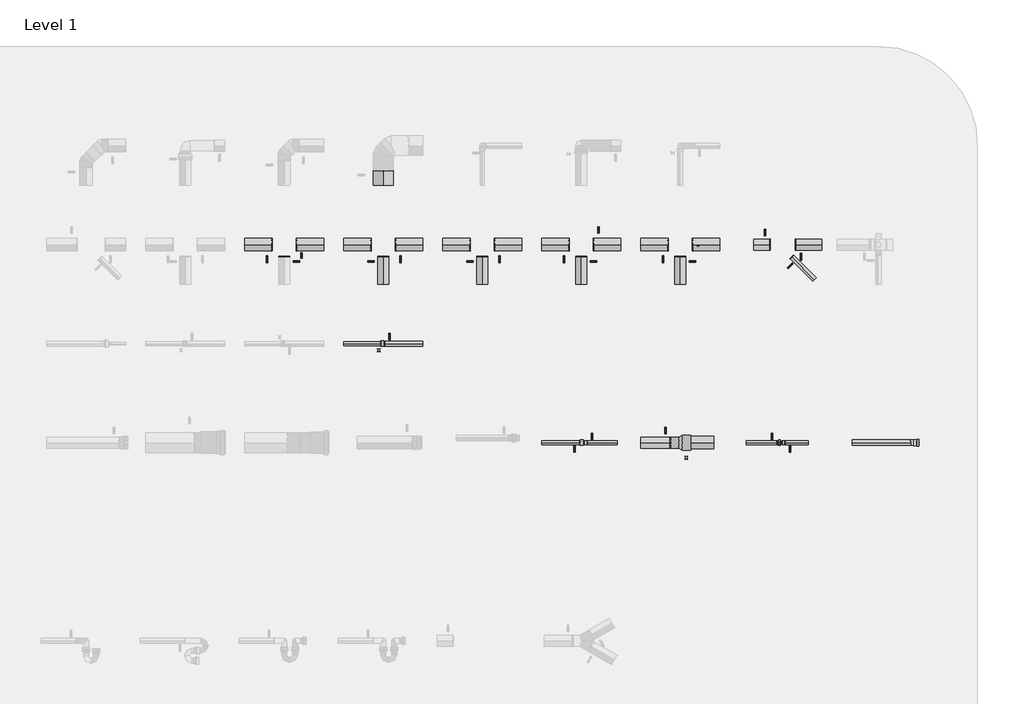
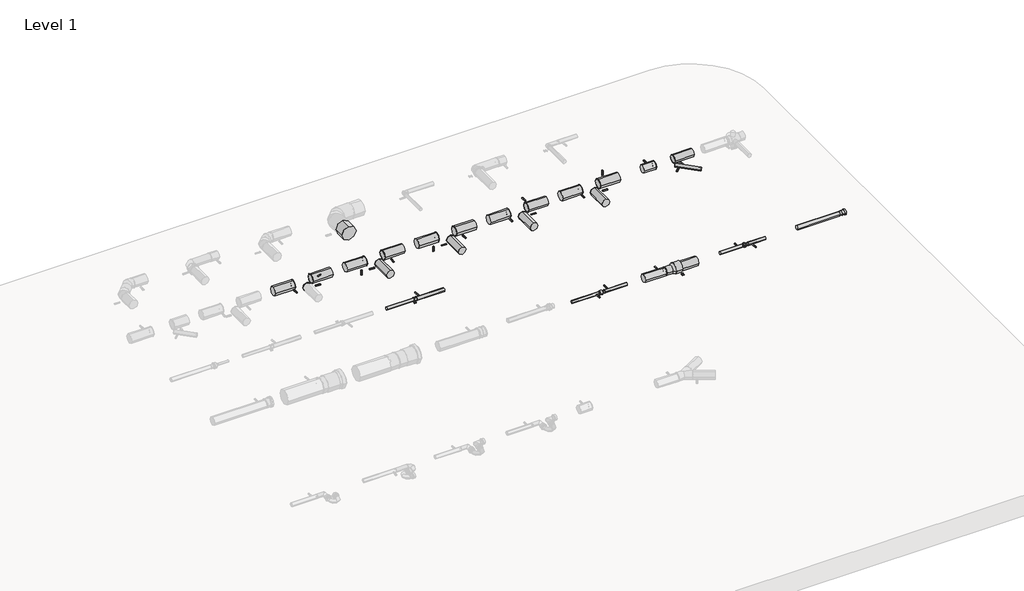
# One storey, part 5 of 6: 34 pipe fittings, 27 pipe segments.
"""IFC4 building model written with IfcOpenShell, lengths in millimetres."""

from ifc_helpers import new_model, si_unit, point, frame, frame_2d, origin, place, context, project, spatial, circle_curve, trimmed, segment, composite_curve, outline, extrude, transform, mapped, element, save
from components import pipe_fitting_c029aed5, pipe_fitting_32baf9d8, var_f4abe94e, var_7bcffa66, nested_do_not_use_0e8bf35e, nested_do_not_use_41f74998, nested_do_not_use_02fd2384, nested_do_not_use_2b7e7ef3, nested_do_not_use_4f358614, welded_7e5780db, welded_75b1cb19, welded_63566782, welded_ac007b25

model = new_model("IFC4")

# Units and contexts
model_context = context("Model", 3, world=origin())
ifc_project = project(units=[si_unit("LENGTHUNIT", "METRE", prefix="MILLI")], contexts=[model_context])

# Site, building, storey
site = spatial("IfcSite", under=ifc_project)
building = spatial("IfcBuilding", under=site)
storey = spatial("IfcBuildingStorey", under=building, Name="Level 1", Elevation=0.0)

# Pipe fittings
placement = place(None, origin())
pipe_fitting_shape = pipe_fitting_c029aed5(model_context)
element("IfcPipeFitting", 1, ObjectType="PIF_HDPE weld_Akatherm : ringseal or non-welded", at=placement, inside=storey, context=model_context, shape_type="MappedRepresentation", body=[
    mapped(pipe_fitting_shape, transform((10658.7281064, 18273.6274824, 200.0), x_axis=(-1.0, 0.0, 0.0), y_axis=(0.0, 1.0, 0.0), z_axis=(0.0, 0.0, -1.0))),
])
pipe_fitting_2_shape = pipe_fitting_32baf9d8(model_context)
element("IfcPipeFitting", 2, ObjectType="PIF_HDPE weld_Akatherm : ringseal or non-welded", at=placement, inside=storey, context=model_context, shape_type="MappedRepresentation", body=[
    mapped(pipe_fitting_2_shape, transform((13674.9781064, 17273.6274824, 200.0), x_axis=(1.0, 0.0, 0.0), y_axis=(0.0, 1.0, 0.0), z_axis=(0.0, 0.0, 1.0))),
])
var_shape = var_f4abe94e(model_context)
element("IfcPipeFitting", 3, ObjectType="PIF_HDPE plugin socket_Akatherm : Var.", at=placement, inside=storey, context=model_context, shape_type="MappedRepresentation", body=[
    mapped(var_shape, transform((15997.9781064, 17273.6274824, 200.0), x_axis=(1.0, 0.0, 0.0), y_axis=(0.0, 1.0, 0.0), z_axis=(0.0, 0.0, 1.0))),
])
var_2_shape = var_7bcffa66(model_context)
element("IfcPipeFitting", 4, ObjectType="PIF_HDPE retraction socket_Akatherm : Var.", at=placement, inside=storey, context=model_context, shape_type="MappedRepresentation", body=[
    mapped(var_2_shape, transform((13659.9781064, 17273.6274824, 200.0), x_axis=(1.0, 0.0, 0.0), y_axis=(0.0, 1.0, 0.0), z_axis=(0.0, 0.0, 1.0))),
])
nested_do_not_use_shape = nested_do_not_use_0e8bf35e(model_context)
element("IfcPipeFitting", 5, ObjectType="ZZZ_do no use_PIF_HDPE rubber sleeve -SH_Akatherm : nested, do not use", at=placement, inside=storey, context=model_context, shape_type="MappedRepresentation", body=[
    mapped(nested_do_not_use_shape, transform((10646.7281064, 18273.6274824, 200.0), x_axis=(-1.0, 0.0, 0.0), y_axis=(0.0, -1.0, 0.0), z_axis=(0.0, 0.0, 1.0))),
])
nested_do_not_use_2_shape = nested_do_not_use_41f74998(model_context)
element("IfcPipeFitting", 6, ObjectType="ZZZ_do no use_PIF_HDPE female thread adapter -SH_Akatherm : nested, do not use", at=placement, inside=storey, context=model_context, shape_type="MappedRepresentation", body=[
    mapped(nested_do_not_use_2_shape, transform((12660.9781064, 17273.6274824, 200.0), x_axis=(1.0, 0.0, 0.0), y_axis=(0.0, 1.0, 0.0), z_axis=(0.0, 0.0, 1.0))),
])
nested_do_not_use_3_shape = nested_do_not_use_02fd2384(model_context)
element("IfcPipeFitting", 7, ObjectType="ZZZ_do no use_PIF_HDPE male thread adapter -SH_Akatherm : nested, do not use", at=placement, inside=storey, context=model_context, shape_type="MappedRepresentation", body=[
    mapped(nested_do_not_use_3_shape, transform((12689.9781064, 17273.6274824, 200.0), x_axis=(-1.0, 0.0, 0.0), y_axis=(0.0, -1.0, 0.0), z_axis=(0.0, 0.0, 1.0))),
])
element("IfcPipeFitting", 8, ObjectType="ZZZ_do no use_PIF_HDPE male thread adapter -SH_Akatherm : nested, do not use", at=placement, inside=storey, context=model_context, shape_type="MappedRepresentation", body=[
    mapped(nested_do_not_use_3_shape, transform((14688.7874716, 17273.6274824, 200.0), x_axis=(-1.0, 0.0, 0.0), y_axis=(0.0, -1.0, 0.0), z_axis=(0.0, 0.0, 1.0))),
])
nested_do_not_use_4_shape = nested_do_not_use_2b7e7ef3(model_context)
element("IfcPipeFitting", 9, ObjectType="ZZZ_do no use_PIF_HDPE trap connecting socket -SH_Akatherm : nested, do not use", at=placement, inside=storey, context=model_context, shape_type="MappedRepresentation", body=[
    mapped(nested_do_not_use_4_shape, transform((10657.7281064, 18273.6274824, 200.0), x_axis=(1.0, 0.0, 0.0), y_axis=(0.0, 1.0, 0.0), z_axis=(0.0, 0.0, 1.0))),
])
nested_do_not_use_5_shape = nested_do_not_use_4f358614(model_context)
element("IfcPipeFitting", 10, ObjectType="ZZZ_do no use_PIF_HDPE screw flange -SH_Akatherm : nested, do not use", at=placement, inside=storey, context=model_context, shape_type="MappedRepresentation", body=[
    mapped(nested_do_not_use_5_shape, transform((14652.7874716, 17273.6274824, 200.0), x_axis=(1.0, 0.0, 0.0), y_axis=(0.0, 1.0, 0.0), z_axis=(0.0, 0.0, 1.0))),
])
welded_shape = welded_7e5780db(model_context)
element("IfcPipeFitting", 11, ObjectType="PIF_HDPE weld_Akatherm : welded", at=placement, inside=storey, context=model_context, shape_type="MappedRepresentation", body=[
    mapped(welded_shape, transform((9534.1781064, 19273.6274824, 200.0), x_axis=(-1.0, 0.0, 0.0), y_axis=(0.0, 1.0, 0.0), z_axis=(0.0, 0.0, -1.0))),
])
element("IfcPipeFitting", 12, ObjectType="PIF_HDPE weld_Akatherm : welded", at=placement, inside=storey, context=model_context, shape_type="MappedRepresentation", body=[
    mapped(welded_shape, transform((10785.7781064, 19273.6274824, 200.0), x_axis=(1.0, 0.0, 0.0), y_axis=(0.0, 1.0, 0.0), z_axis=(0.0, 0.0, 1.0))),
])
element("IfcPipeFitting", 13, ObjectType="PIF_HDPE weld_Akatherm : welded", at=placement, inside=storey, context=model_context, shape_type="MappedRepresentation", body=[
    mapped(welded_shape, transform((10534.1781064, 19273.6274824, 200.0), x_axis=(-1.0, 0.0, 0.0), y_axis=(0.0, 0.0, 1.0), z_axis=(0.0, 1.0, 0.0))),
])
element("IfcPipeFitting", 14, ObjectType="PIF_HDPE weld_Akatherm : welded", at=placement, inside=storey, context=model_context, shape_type="MappedRepresentation", body=[
    mapped(welded_shape, transform((11785.7781064, 19273.6274824, 200.0), x_axis=(1.0, 0.0, 0.0), y_axis=(0.0, 1.0, 0.0), z_axis=(0.0, 0.0, 1.0))),
])
element("IfcPipeFitting", 15, ObjectType="PIF_HDPE weld_Akatherm : welded", at=placement, inside=storey, context=model_context, shape_type="MappedRepresentation", body=[
    mapped(welded_shape, transform((11534.1781064, 19273.6274824, 200.0), x_axis=(-1.0, 0.0, 0.0), y_axis=(0.0, 0.0, 1.0), z_axis=(0.0, 1.0, 0.0))),
])
element("IfcPipeFitting", 16, ObjectType="PIF_HDPE weld_Akatherm : welded", at=placement, inside=storey, context=model_context, shape_type="MappedRepresentation", body=[
    mapped(welded_shape, transform((12534.1781064, 19273.6274824, 200.0), x_axis=(-1.0, 0.0, 0.0), y_axis=(0.0, 1.0, 0.0), z_axis=(0.0, 0.0, -1.0))),
])
element("IfcPipeFitting", 17, ObjectType="PIF_HDPE weld_Akatherm : welded", at=placement, inside=storey, context=model_context, shape_type="MappedRepresentation", body=[
    mapped(welded_shape, transform((12785.7781064, 19273.6274824, 200.0), x_axis=(1.0, 0.0, 0.0), y_axis=(0.0, -1.0, 0.0), z_axis=(0.0, 0.0, -1.0))),
])
element("IfcPipeFitting", 18, ObjectType="PIF_HDPE weld_Akatherm : welded", at=placement, inside=storey, context=model_context, shape_type="MappedRepresentation", body=[
    mapped(welded_shape, transform((13534.1781064, 19273.6274824, 200.0), x_axis=(-1.0, 0.0, 0.0), y_axis=(0.0, 1.0, 0.0), z_axis=(0.0, 0.0, -1.0))),
])
element("IfcPipeFitting", 19, ObjectType="PIF_HDPE weld_Akatherm : welded", at=placement, inside=storey, context=model_context, shape_type="MappedRepresentation", body=[
    mapped(welded_shape, transform((13785.7781064, 19273.6274824, 200.0), x_axis=(1.0, 0.0, 0.0), y_axis=(0.0, 0.0, -1.0), z_axis=(0.0, 1.0, 0.0))),
])
element("IfcPipeFitting", 20, ObjectType="PIF_HDPE weld_Akatherm : welded", at=placement, inside=storey, context=model_context, shape_type="MappedRepresentation", body=[
    mapped(welded_shape, transform((9785.7781064, 19273.6274824, 200.0), x_axis=(1.0, 0.0, 0.0), y_axis=(0.0, 0.7071067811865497, -0.7071067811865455), z_axis=(0.0, 0.7071067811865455, 0.7071067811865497))),
])
welded_2_shape = welded_75b1cb19(model_context)
element("IfcPipeFitting", 21, ObjectType="PIF_HDPE weld_Akatherm : welded", at=placement, inside=storey, context=model_context, shape_type="MappedRepresentation", body=[
    mapped(welded_2_shape, transform((14786.0552455, 19147.5503433, 200.0), x_axis=(0.7071067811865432, -0.7071067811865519, 0.0), y_axis=(0.7071067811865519, 0.7071067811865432, 0.0), z_axis=(0.0, 0.0, 1.0))),
])
element("IfcPipeFitting", 22, ObjectType="PIF_HDPE weld_Akatherm : welded", at=placement, inside=storey, context=model_context, shape_type="MappedRepresentation", body=[
    mapped(welded_2_shape, transform((10675.0281064, 18273.6274824, 200.0), x_axis=(1.0, 0.0, 0.0), y_axis=(0.0, -1.0, 0.0), z_axis=(0.0, 0.0, -1.0))),
])
welded_3_shape = welded_63566782(model_context)
element("IfcPipeFitting", 23, ObjectType="PIF_HDPE weld_Akatherm : welded", at=placement, inside=storey, context=model_context, shape_type="MappedRepresentation", body=[
    mapped(welded_3_shape, transform((12643.6781064, 17273.6274824, 200.0), x_axis=(-1.0, 0.0, 0.0), y_axis=(0.0, 1.0, 0.0), z_axis=(0.0, 0.0, -1.0))),
])
element("IfcPipeFitting", 24, ObjectType="PIF_HDPE weld_Akatherm : welded", at=placement, inside=storey, context=model_context, shape_type="MappedRepresentation", body=[
    mapped(welded_3_shape, transform((12718.2781064, 17273.6274824, 200.0), x_axis=(1.0, 0.0, 0.0), y_axis=(0.0, -1.0, 0.0), z_axis=(0.0, 0.0, -1.0))),
])
element("IfcPipeFitting", 25, ObjectType="PIF_HDPE weld_Akatherm : welded", at=placement, inside=storey, context=model_context, shape_type="MappedRepresentation", body=[
    mapped(welded_3_shape, transform((14636.4874716, 17273.6274824, 200.0), x_axis=(-1.0, 0.0, 0.0), y_axis=(0.0, -1.0, 0.0), z_axis=(0.0, 0.0, 1.0))),
])
element("IfcPipeFitting", 26, ObjectType="PIF_HDPE weld_Akatherm : welded", at=placement, inside=storey, context=model_context, shape_type="MappedRepresentation", body=[
    mapped(welded_3_shape, transform((14717.0874716, 17273.6274824, 200.0), x_axis=(1.0, 0.0, 0.0), y_axis=(0.0, 1.0, 0.0), z_axis=(0.0, 0.0, 1.0))),
])
welded_4_shape = welded_ac007b25(model_context)
element("IfcPipeFitting", 27, ObjectType="PIF_HDPE weld_Akatherm : welded", at=placement, inside=storey, context=model_context, shape_type="MappedRepresentation", body=[
    mapped(welded_4_shape, transform((9659.9781064, 19152.3274824, 200.0), x_axis=(0.0, -1.0, 0.0), y_axis=(-1.0, 0.0, 0.0), z_axis=(0.0, 0.0, -1.0))),
])
element("IfcPipeFitting", 28, ObjectType="PIF_HDPE weld_Akatherm : welded", at=placement, inside=storey, context=model_context, shape_type="MappedRepresentation", body=[
    mapped(welded_4_shape, transform((10659.9781064, 19152.3274824, 200.0), x_axis=(0.0, -1.0, 0.0), y_axis=(1.0, 0.0, 0.0), z_axis=(0.0, 0.0, 1.0))),
])
element("IfcPipeFitting", 29, ObjectType="PIF_HDPE weld_Akatherm : welded", at=placement, inside=storey, context=model_context, shape_type="MappedRepresentation", body=[
    mapped(welded_4_shape, transform((11659.9781064, 19152.3274824, 200.0), x_axis=(0.0, -1.0, 0.0), y_axis=(1.0, 0.0, 0.0), z_axis=(0.0, 0.0, 1.0))),
])
element("IfcPipeFitting", 30, ObjectType="PIF_HDPE weld_Akatherm : welded", at=placement, inside=storey, context=model_context, shape_type="MappedRepresentation", body=[
    mapped(welded_4_shape, transform((12659.9781064, 19152.3274824, 200.0), x_axis=(0.0, -1.0, 0.0), y_axis=(-1.0, 0.0, 0.0), z_axis=(0.0, 0.0, -1.0))),
])
element("IfcPipeFitting", 31, ObjectType="PIF_HDPE weld_Akatherm : welded", at=placement, inside=storey, context=model_context, shape_type="MappedRepresentation", body=[
    mapped(welded_4_shape, transform((13659.9781064, 19152.3274824, 200.0), x_axis=(0.0, -1.0, 0.0), y_axis=(-1.0, 0.0, 0.0), z_axis=(0.0, 0.0, -1.0))),
])
element("IfcPipeFitting", 32, ObjectType="PIF_HDPE weld_Akatherm : welded", at=placement, inside=storey, context=model_context, shape_type="MappedRepresentation", body=[
    mapped(welded_4_shape, transform((14563.6781064, 19273.6274824, 200.0), x_axis=(-1.0, 0.0, 0.0), y_axis=(0.0, -1.0, 0.0), z_axis=(0.0, 0.0, 1.0))),
])
element("IfcPipeFitting", 33, ObjectType="PIF_HDPE weld_Akatherm : welded", at=placement, inside=storey, context=model_context, shape_type="MappedRepresentation", body=[
    mapped(welded_4_shape, transform((14826.2781064, 19273.6274824, 200.0), x_axis=(1.0, 0.0, 0.0), y_axis=(0.0, 1.0, 0.0), z_axis=(0.0, 0.0, 1.0))),
])
element("IfcPipeFitting", 34, ObjectType="PIF_HDPE weld_Akatherm : welded", at=placement, inside=storey, context=model_context, shape_type="MappedRepresentation", body=[
    mapped(welded_4_shape, transform((13558.6781064, 17273.6274824, 200.0), x_axis=(-1.0, 0.0, 0.0), y_axis=(0.0, -1.0, 0.0), z_axis=(0.0, 0.0, 1.0))),
])

# Pipe segments
element("IfcPipeSegment", 35, ObjectType="Akatherm HDPE (DN)", at=placement, inside=storey, context=model_context, shape_type="SweptSolid", body=[
    extrude(outline(composite_curve([segment(trimmed(circle_curve(frame_2d((19273.6274824, 200.0)), 62.5), [point((19211.1274824, 200.0))], [point((19273.6274824, 262.5))], False, "CARTESIAN"), True, "CONTINUOUS"), segment(trimmed(circle_curve(frame_2d((19273.6274824, 200.0)), 62.5), [point((19273.6274824, 262.5))], [point((19336.1274824, 200.0))], False, "CARTESIAN"), True, "CONTINUOUS"), segment(trimmed(circle_curve(frame_2d((19273.6274824, 200.0)), 62.5), [point((19336.1274824, 200.0))], [point((19273.6274824, 137.5))], False, "CARTESIAN"), True, "CONTINUOUS"), segment(trimmed(circle_curve(frame_2d((19273.6274824, 200.0)), 62.5), [point((19273.6274824, 137.5))], [point((19211.1274824, 200.0))], False, "CARTESIAN"), True, "CONTINUOUS")], self_intersect=False)), frame((9781.5781064, 0.0, 0.0), z_axis=(1.0, 0.0, 0.0), x_axis=(0.0, 1.0, 0.0)), (0.0, 0.0, 1.0), 278.4),
])
element("IfcPipeSegment", 36, ObjectType="Akatherm HDPE (DN)", at=placement, inside=storey, context=model_context, shape_type="SweptSolid", body=[
    extrude(outline(composite_curve([segment(trimmed(circle_curve(frame_2d((19273.6274824, 200.0)), 62.5), [point((19211.1274824, 200.0))], [point((19273.6274824, 262.5))], False, "CARTESIAN"), True, "CONTINUOUS"), segment(trimmed(circle_curve(frame_2d((19273.6274824, 200.0)), 62.5), [point((19273.6274824, 262.5))], [point((19336.1274824, 200.0))], False, "CARTESIAN"), True, "CONTINUOUS"), segment(trimmed(circle_curve(frame_2d((19273.6274824, 200.0)), 62.5), [point((19336.1274824, 200.0))], [point((19273.6274824, 137.5))], False, "CARTESIAN"), True, "CONTINUOUS"), segment(trimmed(circle_curve(frame_2d((19273.6274824, 200.0)), 62.5), [point((19273.6274824, 137.5))], [point((19211.1274824, 200.0))], False, "CARTESIAN"), True, "CONTINUOUS")], self_intersect=False)), frame((9259.9781064, 0.0, 0.0), z_axis=(1.0, 0.0, 0.0), x_axis=(0.0, 1.0, 0.0)), (0.0, 0.0, 1.0), 278.4),
])
element("IfcPipeSegment", 37, ObjectType="Akatherm HDPE (DN)", at=placement, inside=storey, context=model_context, shape_type="SweptSolid", body=[
    extrude(outline(composite_curve([segment(trimmed(circle_curve(frame_2d((200.0, 10659.9781064)), 55.0), [point((200.0, 10604.9781064))], [point((145.0, 10659.9781064))], False, "CARTESIAN"), True, "CONTINUOUS"), segment(trimmed(circle_curve(frame_2d((200.0, 10659.9781064)), 55.0), [point((145.0, 10659.9781064))], [point((200.0, 10714.9781064))], False, "CARTESIAN"), True, "CONTINUOUS"), segment(trimmed(circle_curve(frame_2d((200.0, 10659.9781064)), 55.0), [point((200.0, 10714.9781064))], [point((255.0, 10659.9781064))], False, "CARTESIAN"), True, "CONTINUOUS"), segment(trimmed(circle_curve(frame_2d((200.0, 10659.9781064)), 55.0), [point((255.0, 10659.9781064))], [point((200.0, 10604.9781064))], False, "CARTESIAN"), True, "CONTINUOUS")], self_intersect=False)), frame((0.0, 18873.6274824, 0.0), z_axis=(0.0, 1.0, 0.0), x_axis=(0.0, 0.0, 1.0)), (0.0, 0.0, 1.0), 282.4),
])
element("IfcPipeSegment", 38, ObjectType="Akatherm HDPE (DN)", at=placement, inside=storey, context=model_context, shape_type="SweptSolid", body=[
    extrude(outline(composite_curve([segment(trimmed(circle_curve(frame_2d((19273.6274824, 200.0)), 62.5), [point((19211.1274824, 200.0))], [point((19273.6274824, 262.5))], False, "CARTESIAN"), True, "CONTINUOUS"), segment(trimmed(circle_curve(frame_2d((19273.6274824, 200.0)), 62.5), [point((19273.6274824, 262.5))], [point((19336.1274824, 200.0))], False, "CARTESIAN"), True, "CONTINUOUS"), segment(trimmed(circle_curve(frame_2d((19273.6274824, 200.0)), 62.5), [point((19336.1274824, 200.0))], [point((19273.6274824, 137.5))], False, "CARTESIAN"), True, "CONTINUOUS"), segment(trimmed(circle_curve(frame_2d((19273.6274824, 200.0)), 62.5), [point((19273.6274824, 137.5))], [point((19211.1274824, 200.0))], False, "CARTESIAN"), True, "CONTINUOUS")], self_intersect=False)), frame((10781.5781064, 0.0, 0.0), z_axis=(1.0, 0.0, 0.0), x_axis=(0.0, 1.0, 0.0)), (0.0, 0.0, 1.0), 278.4),
])
element("IfcPipeSegment", 39, ObjectType="Akatherm HDPE (DN)", at=placement, inside=storey, context=model_context, shape_type="SweptSolid", body=[
    extrude(outline(composite_curve([segment(trimmed(circle_curve(frame_2d((19273.6274824, 200.0)), 62.5), [point((19211.1274824, 200.0))], [point((19273.6274824, 262.5))], False, "CARTESIAN"), True, "CONTINUOUS"), segment(trimmed(circle_curve(frame_2d((19273.6274824, 200.0)), 62.5), [point((19273.6274824, 262.5))], [point((19336.1274824, 200.0))], False, "CARTESIAN"), True, "CONTINUOUS"), segment(trimmed(circle_curve(frame_2d((19273.6274824, 200.0)), 62.5), [point((19336.1274824, 200.0))], [point((19273.6274824, 137.5))], False, "CARTESIAN"), True, "CONTINUOUS"), segment(trimmed(circle_curve(frame_2d((19273.6274824, 200.0)), 62.5), [point((19273.6274824, 137.5))], [point((19211.1274824, 200.0))], False, "CARTESIAN"), True, "CONTINUOUS")], self_intersect=False)), frame((10259.9781064, 0.0, 0.0), z_axis=(1.0, 0.0, 0.0), x_axis=(0.0, 1.0, 0.0)), (0.0, 0.0, 1.0), 278.4),
])
element("IfcPipeSegment", 40, ObjectType="Akatherm HDPE (DN)", at=placement, inside=storey, context=model_context, shape_type="SweptSolid", body=[
    extrude(outline(composite_curve([segment(trimmed(circle_curve(frame_2d((200.0, 11659.9781064)), 55.0), [point((200.0, 11604.9781064))], [point((145.0, 11659.9781064))], False, "CARTESIAN"), True, "CONTINUOUS"), segment(trimmed(circle_curve(frame_2d((200.0, 11659.9781064)), 55.0), [point((145.0, 11659.9781064))], [point((200.0, 11714.9781064))], False, "CARTESIAN"), True, "CONTINUOUS"), segment(trimmed(circle_curve(frame_2d((200.0, 11659.9781064)), 55.0), [point((200.0, 11714.9781064))], [point((255.0, 11659.9781064))], False, "CARTESIAN"), True, "CONTINUOUS"), segment(trimmed(circle_curve(frame_2d((200.0, 11659.9781064)), 55.0), [point((255.0, 11659.9781064))], [point((200.0, 11604.9781064))], False, "CARTESIAN"), True, "CONTINUOUS")], self_intersect=False)), frame((0.0, 18873.6274824, 0.0), z_axis=(0.0, 1.0, 0.0), x_axis=(0.0, 0.0, 1.0)), (0.0, 0.0, 1.0), 282.4),
])
element("IfcPipeSegment", 41, ObjectType="Akatherm HDPE (DN)", at=placement, inside=storey, context=model_context, shape_type="SweptSolid", body=[
    extrude(outline(composite_curve([segment(trimmed(circle_curve(frame_2d((19273.6274824, 200.0)), 62.5), [point((19211.1274824, 200.0))], [point((19273.6274824, 262.5))], False, "CARTESIAN"), True, "CONTINUOUS"), segment(trimmed(circle_curve(frame_2d((19273.6274824, 200.0)), 62.5), [point((19273.6274824, 262.5))], [point((19336.1274824, 200.0))], False, "CARTESIAN"), True, "CONTINUOUS"), segment(trimmed(circle_curve(frame_2d((19273.6274824, 200.0)), 62.5), [point((19336.1274824, 200.0))], [point((19273.6274824, 137.5))], False, "CARTESIAN"), True, "CONTINUOUS"), segment(trimmed(circle_curve(frame_2d((19273.6274824, 200.0)), 62.5), [point((19273.6274824, 137.5))], [point((19211.1274824, 200.0))], False, "CARTESIAN"), True, "CONTINUOUS")], self_intersect=False)), frame((11781.5781064, 0.0, 0.0), z_axis=(1.0, 0.0, 0.0), x_axis=(0.0, 1.0, 0.0)), (0.0, 0.0, 1.0), 278.4),
])
element("IfcPipeSegment", 42, ObjectType="Akatherm HDPE (DN)", at=placement, inside=storey, context=model_context, shape_type="SweptSolid", body=[
    extrude(outline(composite_curve([segment(trimmed(circle_curve(frame_2d((19273.6274824, 200.0)), 62.5), [point((19211.1274824, 200.0))], [point((19273.6274824, 262.5))], False, "CARTESIAN"), True, "CONTINUOUS"), segment(trimmed(circle_curve(frame_2d((19273.6274824, 200.0)), 62.5), [point((19273.6274824, 262.5))], [point((19336.1274824, 200.0))], False, "CARTESIAN"), True, "CONTINUOUS"), segment(trimmed(circle_curve(frame_2d((19273.6274824, 200.0)), 62.5), [point((19336.1274824, 200.0))], [point((19273.6274824, 137.5))], False, "CARTESIAN"), True, "CONTINUOUS"), segment(trimmed(circle_curve(frame_2d((19273.6274824, 200.0)), 62.5), [point((19273.6274824, 137.5))], [point((19211.1274824, 200.0))], False, "CARTESIAN"), True, "CONTINUOUS")], self_intersect=False)), frame((11259.9781064, 0.0, 0.0), z_axis=(1.0, 0.0, 0.0), x_axis=(0.0, 1.0, 0.0)), (0.0, 0.0, 1.0), 278.4),
])
element("IfcPipeSegment", 43, ObjectType="Akatherm HDPE (DN)", at=placement, inside=storey, context=model_context, shape_type="SweptSolid", body=[
    extrude(outline(composite_curve([segment(trimmed(circle_curve(frame_2d((200.0, 12659.9781064)), 55.0), [point((200.0, 12604.9781064))], [point((145.0, 12659.9781064))], False, "CARTESIAN"), True, "CONTINUOUS"), segment(trimmed(circle_curve(frame_2d((200.0, 12659.9781064)), 55.0), [point((145.0, 12659.9781064))], [point((200.0, 12714.9781064))], False, "CARTESIAN"), True, "CONTINUOUS"), segment(trimmed(circle_curve(frame_2d((200.0, 12659.9781064)), 55.0), [point((200.0, 12714.9781064))], [point((255.0, 12659.9781064))], False, "CARTESIAN"), True, "CONTINUOUS"), segment(trimmed(circle_curve(frame_2d((200.0, 12659.9781064)), 55.0), [point((255.0, 12659.9781064))], [point((200.0, 12604.9781064))], False, "CARTESIAN"), True, "CONTINUOUS")], self_intersect=False)), frame((0.0, 18873.6274824, 0.0), z_axis=(0.0, 1.0, 0.0), x_axis=(0.0, 0.0, 1.0)), (0.0, 0.0, 1.0), 282.4),
])
element("IfcPipeSegment", 44, ObjectType="Akatherm HDPE (DN)", at=placement, inside=storey, context=model_context, shape_type="SweptSolid", body=[
    extrude(outline(composite_curve([segment(trimmed(circle_curve(frame_2d((19273.6274824, 200.0)), 62.5), [point((19211.1274824, 200.0))], [point((19273.6274824, 262.5))], False, "CARTESIAN"), True, "CONTINUOUS"), segment(trimmed(circle_curve(frame_2d((19273.6274824, 200.0)), 62.5), [point((19273.6274824, 262.5))], [point((19336.1274824, 200.0))], False, "CARTESIAN"), True, "CONTINUOUS"), segment(trimmed(circle_curve(frame_2d((19273.6274824, 200.0)), 62.5), [point((19336.1274824, 200.0))], [point((19273.6274824, 137.5))], False, "CARTESIAN"), True, "CONTINUOUS"), segment(trimmed(circle_curve(frame_2d((19273.6274824, 200.0)), 62.5), [point((19273.6274824, 137.5))], [point((19211.1274824, 200.0))], False, "CARTESIAN"), True, "CONTINUOUS")], self_intersect=False)), frame((12781.5781064, 0.0, 0.0), z_axis=(1.0, 0.0, 0.0), x_axis=(0.0, 1.0, 0.0)), (0.0, 0.0, 1.0), 278.4),
])
element("IfcPipeSegment", 45, ObjectType="Akatherm HDPE (DN)", at=placement, inside=storey, context=model_context, shape_type="SweptSolid", body=[
    extrude(outline(composite_curve([segment(trimmed(circle_curve(frame_2d((19273.6274824, 200.0)), 62.5), [point((19211.1274824, 200.0))], [point((19273.6274824, 262.5))], False, "CARTESIAN"), True, "CONTINUOUS"), segment(trimmed(circle_curve(frame_2d((19273.6274824, 200.0)), 62.5), [point((19273.6274824, 262.5))], [point((19336.1274824, 200.0))], False, "CARTESIAN"), True, "CONTINUOUS"), segment(trimmed(circle_curve(frame_2d((19273.6274824, 200.0)), 62.5), [point((19336.1274824, 200.0))], [point((19273.6274824, 137.5))], False, "CARTESIAN"), True, "CONTINUOUS"), segment(trimmed(circle_curve(frame_2d((19273.6274824, 200.0)), 62.5), [point((19273.6274824, 137.5))], [point((19211.1274824, 200.0))], False, "CARTESIAN"), True, "CONTINUOUS")], self_intersect=False)), frame((12259.9781064, 0.0, 0.0), z_axis=(1.0, 0.0, 0.0), x_axis=(0.0, 1.0, 0.0)), (0.0, 0.0, 1.0), 278.4),
])
element("IfcPipeSegment", 46, ObjectType="Akatherm HDPE (DN)", at=placement, inside=storey, context=model_context, shape_type="SweptSolid", body=[
    extrude(outline(composite_curve([segment(trimmed(circle_curve(frame_2d((200.0, 13659.9781064)), 55.0), [point((200.0, 13604.9781064))], [point((145.0, 13659.9781064))], False, "CARTESIAN"), True, "CONTINUOUS"), segment(trimmed(circle_curve(frame_2d((200.0, 13659.9781064)), 55.0), [point((145.0, 13659.9781064))], [point((200.0, 13714.9781064))], False, "CARTESIAN"), True, "CONTINUOUS"), segment(trimmed(circle_curve(frame_2d((200.0, 13659.9781064)), 55.0), [point((200.0, 13714.9781064))], [point((255.0, 13659.9781064))], False, "CARTESIAN"), True, "CONTINUOUS"), segment(trimmed(circle_curve(frame_2d((200.0, 13659.9781064)), 55.0), [point((255.0, 13659.9781064))], [point((200.0, 13604.9781064))], False, "CARTESIAN"), True, "CONTINUOUS")], self_intersect=False)), frame((0.0, 18873.6274824, 0.0), z_axis=(0.0, 1.0, 0.0), x_axis=(0.0, 0.0, 1.0)), (0.0, 0.0, 1.0), 282.4),
])
element("IfcPipeSegment", 47, ObjectType="Akatherm HDPE (DN)", at=placement, inside=storey, context=model_context, shape_type="SweptSolid", body=[
    extrude(outline(composite_curve([segment(trimmed(circle_curve(frame_2d((19273.6274824, 200.0)), 62.5), [point((19211.1274824, 200.0))], [point((19273.6274824, 262.5))], False, "CARTESIAN"), True, "CONTINUOUS"), segment(trimmed(circle_curve(frame_2d((19273.6274824, 200.0)), 62.5), [point((19273.6274824, 262.5))], [point((19336.1274824, 200.0))], False, "CARTESIAN"), True, "CONTINUOUS"), segment(trimmed(circle_curve(frame_2d((19273.6274824, 200.0)), 62.5), [point((19336.1274824, 200.0))], [point((19273.6274824, 137.5))], False, "CARTESIAN"), True, "CONTINUOUS"), segment(trimmed(circle_curve(frame_2d((19273.6274824, 200.0)), 62.5), [point((19273.6274824, 137.5))], [point((19211.1274824, 200.0))], False, "CARTESIAN"), True, "CONTINUOUS")], self_intersect=False)), frame((13781.5781064, 0.0, 0.0), z_axis=(1.0, 0.0, 0.0), x_axis=(0.0, 1.0, 0.0)), (0.0, 0.0, 1.0), 278.4),
])
element("IfcPipeSegment", 48, ObjectType="Akatherm HDPE (DN)", at=placement, inside=storey, context=model_context, shape_type="SweptSolid", body=[
    extrude(outline(composite_curve([segment(trimmed(circle_curve(frame_2d((19273.6274824, 200.0)), 62.5), [point((19211.1274824, 200.0))], [point((19273.6274824, 262.5))], False, "CARTESIAN"), True, "CONTINUOUS"), segment(trimmed(circle_curve(frame_2d((19273.6274824, 200.0)), 62.5), [point((19273.6274824, 262.5))], [point((19336.1274824, 200.0))], False, "CARTESIAN"), True, "CONTINUOUS"), segment(trimmed(circle_curve(frame_2d((19273.6274824, 200.0)), 62.5), [point((19336.1274824, 200.0))], [point((19273.6274824, 137.5))], False, "CARTESIAN"), True, "CONTINUOUS"), segment(trimmed(circle_curve(frame_2d((19273.6274824, 200.0)), 62.5), [point((19273.6274824, 137.5))], [point((19211.1274824, 200.0))], False, "CARTESIAN"), True, "CONTINUOUS")], self_intersect=False)), frame((13259.9781064, 0.0, 0.0), z_axis=(1.0, 0.0, 0.0), x_axis=(0.0, 1.0, 0.0)), (0.0, 0.0, 1.0), 278.4),
])
element("IfcPipeSegment", 49, ObjectType="Akatherm HDPE (DN)", at=placement, inside=storey, context=model_context, shape_type="SweptSolid", body=[
    extrude(outline(composite_curve([segment(trimmed(circle_curve(frame_2d((19273.6274824, 200.0)), 55.0), [point((19218.6274824, 200.0))], [point((19273.6274824, 255.0))], False, "CARTESIAN"), True, "CONTINUOUS"), segment(trimmed(circle_curve(frame_2d((19273.6274824, 200.0)), 55.0), [point((19273.6274824, 255.0))], [point((19328.6274824, 200.0))], False, "CARTESIAN"), True, "CONTINUOUS"), segment(trimmed(circle_curve(frame_2d((19273.6274824, 200.0)), 55.0), [point((19328.6274824, 200.0))], [point((19273.6274824, 145.0))], False, "CARTESIAN"), True, "CONTINUOUS"), segment(trimmed(circle_curve(frame_2d((19273.6274824, 200.0)), 55.0), [point((19273.6274824, 145.0))], [point((19218.6274824, 200.0))], False, "CARTESIAN"), True, "CONTINUOUS")], self_intersect=False)), frame((14822.5781064, 0.0, 0.0), z_axis=(1.0, 0.0, 0.0), x_axis=(0.0, 1.0, 0.0)), (0.0, 0.0, 1.0), 267.4),
])
element("IfcPipeSegment", 50, ObjectType="Akatherm HDPE (DN)", at=placement, inside=storey, context=model_context, shape_type="SweptSolid", body=[
    extrude(outline(composite_curve([segment(trimmed(circle_curve(frame_2d((19273.6274824, 200.0)), 55.0), [point((19328.6274824, 200.0))], [point((19273.6274824, 145.0))], False, "CARTESIAN"), True, "CONTINUOUS"), segment(trimmed(circle_curve(frame_2d((19273.6274824, 200.0)), 55.0), [point((19273.6274824, 145.0))], [point((19218.6274824, 200.0))], False, "CARTESIAN"), True, "CONTINUOUS"), segment(trimmed(circle_curve(frame_2d((19273.6274824, 200.0)), 55.0), [point((19218.6274824, 200.0))], [point((19273.6274824, 255.0))], False, "CARTESIAN"), True, "CONTINUOUS"), segment(trimmed(circle_curve(frame_2d((19273.6274824, 200.0)), 55.0), [point((19273.6274824, 255.0))], [point((19328.6274824, 200.0))], False, "CARTESIAN"), True, "CONTINUOUS")], self_intersect=False)), frame((14399.9781064, 0.0, 0.0), z_axis=(1.0, 0.0, 0.0), x_axis=(0.0, 1.0, 0.0)), (0.0, 0.0, 1.0), 167.4),
])
element("IfcPipeSegment", 51, ObjectType="Akatherm HDPE (DN)", at=placement, inside=storey, context=model_context, shape_type="SweptSolid", body=[
    extrude(outline(composite_curve([segment(trimmed(circle_curve(frame_2d((0.0, -25.0)), 25.0), [point((-25.0, -25.0))], [point((0.0, 0.0))], False, "CARTESIAN"), True, "CONTINUOUS"), segment(trimmed(circle_curve(frame_2d((0.0, -25.0)), 25.0), [point((0.0, 0.0))], [point((25.0, -25.0))], False, "CARTESIAN"), True, "CONTINUOUS"), segment(trimmed(circle_curve(frame_2d((0.0, -25.0)), 25.0), [point((25.0, -25.0))], [point((0.0, -50.0))], False, "CARTESIAN"), True, "CONTINUOUS"), segment(trimmed(circle_curve(frame_2d((0.0, -25.0)), 25.0), [point((0.0, -50.0))], [point((-25.0, -25.0))], False, "CARTESIAN"), True, "CONTINUOUS")], self_intersect=False)), frame((15013.531497, 18920.0740918, 175.0), z_axis=(-0.7071067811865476, 0.7071067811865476, 0.0), x_axis=(0.7071067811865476, 0.7071067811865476, 0.0)), (0.0, 0.0, 1.0), 323.4),
])
element("IfcPipeSegment", 52, ObjectType="Akatherm HDPE (DN)", at=placement, inside=storey, context=model_context, shape_type="SweptSolid", body=[
    extrude(outline(composite_curve([segment(trimmed(circle_curve(frame_2d((200.0, 10659.9781064)), 100.0), [point((200.0, 10559.9781064))], [point((100.0, 10659.9781064))], False, "CARTESIAN"), True, "CONTINUOUS"), segment(trimmed(circle_curve(frame_2d((200.0, 10659.9781064)), 100.0), [point((100.0, 10659.9781064))], [point((200.0, 10759.9781064))], False, "CARTESIAN"), True, "CONTINUOUS"), segment(trimmed(circle_curve(frame_2d((200.0, 10659.9781064)), 100.0), [point((200.0, 10759.9781064))], [point((300.0, 10659.9781064))], False, "CARTESIAN"), True, "CONTINUOUS"), segment(trimmed(circle_curve(frame_2d((200.0, 10659.9781064)), 100.0), [point((300.0, 10659.9781064))], [point((200.0, 10559.9781064))], False, "CARTESIAN"), True, "CONTINUOUS")], self_intersect=False)), frame((0.0, 19873.6274824, 0.0), z_axis=(0.0, 1.0, 0.0), x_axis=(0.0, 0.0, 1.0)), (0.0, 0.0, 1.0), 156.4),
])
element("IfcPipeSegment", 53, ObjectType="Akatherm HDPE (DN)", at=placement, inside=storey, context=model_context, shape_type="SweptSolid", body=[
    extrude(outline(composite_curve([segment(trimmed(circle_curve(frame_2d((17273.6274824, 200.0)), 20.0), [point((17293.6274824, 200.0))], [point((17273.6274824, 180.0))], False, "CARTESIAN"), True, "CONTINUOUS"), segment(trimmed(circle_curve(frame_2d((17273.6274824, 200.0)), 20.0), [point((17273.6274824, 180.0))], [point((17253.6274824, 200.0))], False, "CARTESIAN"), True, "CONTINUOUS"), segment(trimmed(circle_curve(frame_2d((17273.6274824, 200.0)), 20.0), [point((17253.6274824, 200.0))], [point((17273.6274824, 220.0))], False, "CARTESIAN"), True, "CONTINUOUS"), segment(trimmed(circle_curve(frame_2d((17273.6274824, 200.0)), 20.0), [point((17273.6274824, 220.0))], [point((17293.6274824, 200.0))], False, "CARTESIAN"), True, "CONTINUOUS")], self_intersect=False)), frame((12259.9781064, 0.0, 0.0), z_axis=(1.0, 0.0, 0.0), x_axis=(0.0, 1.0, 0.0)), (0.0, 0.0, 1.0), 385.4),
])
element("IfcPipeSegment", 54, ObjectType="Akatherm HDPE (DN)", at=placement, inside=storey, context=model_context, shape_type="SweptSolid", body=[
    extrude(outline(composite_curve([segment(trimmed(circle_curve(frame_2d((17273.6274824, 200.0)), 20.0), [point((17253.6274824, 200.0))], [point((17273.6274824, 220.0))], False, "CARTESIAN"), True, "CONTINUOUS"), segment(trimmed(circle_curve(frame_2d((17273.6274824, 200.0)), 20.0), [point((17273.6274824, 220.0))], [point((17293.6274824, 200.0))], False, "CARTESIAN"), True, "CONTINUOUS"), segment(trimmed(circle_curve(frame_2d((17273.6274824, 200.0)), 20.0), [point((17293.6274824, 200.0))], [point((17273.6274824, 180.0))], False, "CARTESIAN"), True, "CONTINUOUS"), segment(trimmed(circle_curve(frame_2d((17273.6274824, 200.0)), 20.0), [point((17273.6274824, 180.0))], [point((17253.6274824, 200.0))], False, "CARTESIAN"), True, "CONTINUOUS")], self_intersect=False)), frame((12716.5781064, 0.0, 0.0), z_axis=(1.0, 0.0, 0.0), x_axis=(0.0, 1.0, 0.0)), (0.0, 0.0, 1.0), 308.4),
])
element("IfcPipeSegment", 55, ObjectType="Akatherm HDPE (DN)", at=placement, inside=storey, context=model_context, shape_type="SweptSolid", body=[
    extrude(outline(composite_curve([segment(trimmed(circle_curve(frame_2d((17273.6274824, 200.0)), 55.0), [point((17328.6274824, 200.0))], [point((17273.6274824, 145.0))], False, "CARTESIAN"), True, "CONTINUOUS"), segment(trimmed(circle_curve(frame_2d((17273.6274824, 200.0)), 55.0), [point((17273.6274824, 145.0))], [point((17218.6274824, 200.0))], False, "CARTESIAN"), True, "CONTINUOUS"), segment(trimmed(circle_curve(frame_2d((17273.6274824, 200.0)), 55.0), [point((17218.6274824, 200.0))], [point((17273.6274824, 255.0))], False, "CARTESIAN"), True, "CONTINUOUS"), segment(trimmed(circle_curve(frame_2d((17273.6274824, 200.0)), 55.0), [point((17273.6274824, 255.0))], [point((17328.6274824, 200.0))], False, "CARTESIAN"), True, "CONTINUOUS")], self_intersect=False)), frame((13259.9781064, 0.0, 0.0), z_axis=(1.0, 0.0, 0.0), x_axis=(0.0, 1.0, 0.0)), (0.0, 0.0, 1.0), 302.4),
])
element("IfcPipeSegment", 56, ObjectType="Akatherm HDPE (DN)", at=placement, inside=storey, context=model_context, shape_type="SweptSolid", body=[
    extrude(outline(composite_curve([segment(trimmed(circle_curve(frame_2d((17273.6274824, 200.0)), 62.5), [point((17211.1274824, 200.0))], [point((17273.6274824, 262.5))], False, "CARTESIAN"), True, "CONTINUOUS"), segment(trimmed(circle_curve(frame_2d((17273.6274824, 200.0)), 62.5), [point((17273.6274824, 262.5))], [point((17336.1274824, 200.0))], False, "CARTESIAN"), True, "CONTINUOUS"), segment(trimmed(circle_curve(frame_2d((17273.6274824, 200.0)), 62.5), [point((17336.1274824, 200.0))], [point((17273.6274824, 137.5))], False, "CARTESIAN"), True, "CONTINUOUS"), segment(trimmed(circle_curve(frame_2d((17273.6274824, 200.0)), 62.5), [point((17273.6274824, 137.5))], [point((17211.1274824, 200.0))], False, "CARTESIAN"), True, "CONTINUOUS")], self_intersect=False)), frame((13674.9781064, 0.0, 0.0), z_axis=(1.0, 0.0, 0.0), x_axis=(0.0, 1.0, 0.0)), (0.0, 0.0, 1.0), 320.0),
])
element("IfcPipeSegment", 57, ObjectType="Akatherm HDPE (DN)", at=placement, inside=storey, context=model_context, shape_type="SweptSolid", body=[
    extrude(outline(composite_curve([segment(trimmed(circle_curve(frame_2d((17273.6274824, 200.0)), 20.0), [point((17293.6274824, 200.0))], [point((17273.6274824, 180.0))], False, "CARTESIAN"), True, "CONTINUOUS"), segment(trimmed(circle_curve(frame_2d((17273.6274824, 200.0)), 20.0), [point((17273.6274824, 180.0))], [point((17253.6274824, 200.0))], False, "CARTESIAN"), True, "CONTINUOUS"), segment(trimmed(circle_curve(frame_2d((17273.6274824, 200.0)), 20.0), [point((17253.6274824, 200.0))], [point((17273.6274824, 220.0))], False, "CARTESIAN"), True, "CONTINUOUS"), segment(trimmed(circle_curve(frame_2d((17273.6274824, 200.0)), 20.0), [point((17273.6274824, 220.0))], [point((17293.6274824, 200.0))], False, "CARTESIAN"), True, "CONTINUOUS")], self_intersect=False)), frame((14324.7874716, 0.0, 0.0), z_axis=(1.0, 0.0, 0.0), x_axis=(0.0, 1.0, 0.0)), (0.0, 0.0, 1.0), 313.4),
])
element("IfcPipeSegment", 58, ObjectType="Akatherm HDPE (DN)", at=placement, inside=storey, context=model_context, shape_type="SweptSolid", body=[
    extrude(outline(composite_curve([segment(trimmed(circle_curve(frame_2d((17273.6274824, 200.0)), 20.0), [point((17253.6274824, 200.0))], [point((17273.6274824, 220.0))], False, "CARTESIAN"), True, "CONTINUOUS"), segment(trimmed(circle_curve(frame_2d((17273.6274824, 200.0)), 20.0), [point((17273.6274824, 220.0))], [point((17293.6274824, 200.0))], False, "CARTESIAN"), True, "CONTINUOUS"), segment(trimmed(circle_curve(frame_2d((17273.6274824, 200.0)), 20.0), [point((17293.6274824, 200.0))], [point((17273.6274824, 180.0))], False, "CARTESIAN"), True, "CONTINUOUS"), segment(trimmed(circle_curve(frame_2d((17273.6274824, 200.0)), 20.0), [point((17273.6274824, 180.0))], [point((17253.6274824, 200.0))], False, "CARTESIAN"), True, "CONTINUOUS")], self_intersect=False)), frame((14715.3874716, 0.0, 0.0), z_axis=(1.0, 0.0, 0.0), x_axis=(0.0, 1.0, 0.0)), (0.0, 0.0, 1.0), 238.4),
])
element("IfcPipeSegment", 59, ObjectType="Akatherm HDPE (DN)", at=placement, inside=storey, context=model_context, shape_type="SweptSolid", body=[
    extrude(outline(composite_curve([segment(trimmed(circle_curve(frame_2d((18273.6274824, 200.0)), 20.0), [point((18253.6274824, 200.0))], [point((18273.6274824, 220.0))], False, "CARTESIAN"), True, "CONTINUOUS"), segment(trimmed(circle_curve(frame_2d((18273.6274824, 200.0)), 20.0), [point((18273.6274824, 220.0))], [point((18293.6274824, 200.0))], False, "CARTESIAN"), True, "CONTINUOUS"), segment(trimmed(circle_curve(frame_2d((18273.6274824, 200.0)), 20.0), [point((18293.6274824, 200.0))], [point((18273.6274824, 180.0))], False, "CARTESIAN"), True, "CONTINUOUS"), segment(trimmed(circle_curve(frame_2d((18273.6274824, 200.0)), 20.0), [point((18273.6274824, 180.0))], [point((18253.6274824, 200.0))], False, "CARTESIAN"), True, "CONTINUOUS")], self_intersect=False)), frame((10259.9781064, 0.0, 0.0), z_axis=(1.0, 0.0, 0.0), x_axis=(0.0, 1.0, 0.0)), (0.0, 0.0, 1.0), 398.75),
])
element("IfcPipeSegment", 60, ObjectType="Akatherm HDPE (DN)", at=placement, inside=storey, context=model_context, shape_type="SweptSolid", body=[
    extrude(outline(composite_curve([segment(trimmed(circle_curve(frame_2d((18273.6274824, 200.0)), 25.0), [point((18248.6274824, 200.0))], [point((18273.6274824, 225.0))], False, "CARTESIAN"), True, "CONTINUOUS"), segment(trimmed(circle_curve(frame_2d((18273.6274824, 200.0)), 25.0), [point((18273.6274824, 225.0))], [point((18298.6274824, 200.0))], False, "CARTESIAN"), True, "CONTINUOUS"), segment(trimmed(circle_curve(frame_2d((18273.6274824, 200.0)), 25.0), [point((18298.6274824, 200.0))], [point((18273.6274824, 175.0))], False, "CARTESIAN"), True, "CONTINUOUS"), segment(trimmed(circle_curve(frame_2d((18273.6274824, 200.0)), 25.0), [point((18273.6274824, 175.0))], [point((18248.6274824, 200.0))], False, "CARTESIAN"), True, "CONTINUOUS")], self_intersect=False)), frame((10673.3281064, 0.0, 0.0), z_axis=(1.0, 0.0, 0.0), x_axis=(0.0, 1.0, 0.0)), (0.0, 0.0, 1.0), 386.65),
])
element("IfcPipeSegment", 61, ObjectType="Akatherm HDPE (DN)", at=placement, inside=storey, context=model_context, shape_type="SweptSolid", body=[
    extrude(outline(composite_curve([segment(trimmed(circle_curve(frame_2d((17273.3476424, 200.0)), 28.0), [point((17301.3476424, 200.0))], [point((17273.3476424, 172.0))], False, "CARTESIAN"), True, "CONTINUOUS"), segment(trimmed(circle_curve(frame_2d((17273.3476424, 200.0)), 28.0), [point((17273.3476424, 172.0))], [point((17245.3476424, 200.0))], False, "CARTESIAN"), True, "CONTINUOUS"), segment(trimmed(circle_curve(frame_2d((17273.3476424, 200.0)), 28.0), [point((17245.3476424, 200.0))], [point((17273.3476424, 228.0))], False, "CARTESIAN"), True, "CONTINUOUS"), segment(trimmed(circle_curve(frame_2d((17273.3476424, 200.0)), 28.0), [point((17273.3476424, 228.0))], [point((17301.3476424, 200.0))], False, "CARTESIAN"), True, "CONTINUOUS")], self_intersect=False)), frame((15394.5443532, 0.0, 0.0), z_axis=(1.0, 0.0, 0.0), x_axis=(0.0, 1.0, 0.0)), (0.0, 0.0, 1.0), 589.8337533),
])

save(model, "model.ifc")
